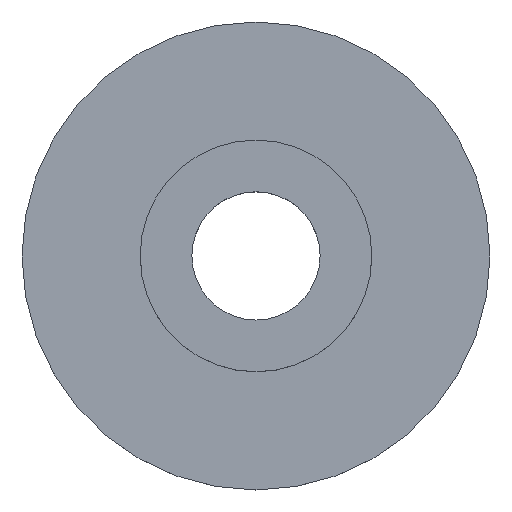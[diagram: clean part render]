
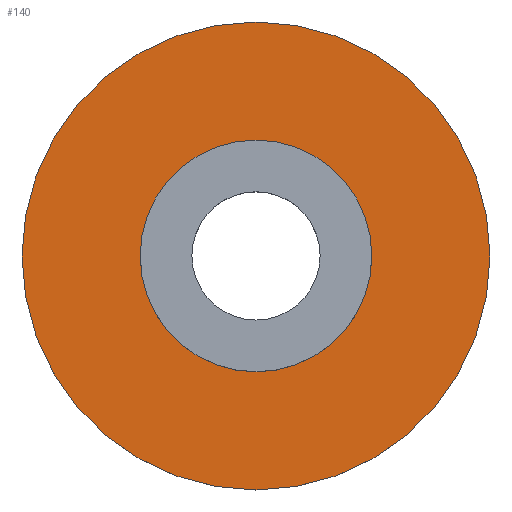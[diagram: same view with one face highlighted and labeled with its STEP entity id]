
A CAD part, top view. The second image highlights one B-rep face of the part: STEP entity #140.
In plain terms, the highlighted planar face has unit normal (0, 0, 1).
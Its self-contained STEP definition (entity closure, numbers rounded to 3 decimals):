
#74 = CYLINDRICAL_SURFACE('',#75,45.45);
#75 = AXIS2_PLACEMENT_3D('',#76,#77,#78);
#76 = CARTESIAN_POINT('',(0.,0.,0.));
#77 = DIRECTION('',(0.,0.,1.));
#78 = DIRECTION('',(1.,0.,-0.));
#91 = VERTEX_POINT('',#92);
#92 = CARTESIAN_POINT('',(45.45,0.,2.1));
#113 = EDGE_CURVE('',#91,#91,#114,.T.);
#114 = SURFACE_CURVE('',#115,(#120,#127),.PCURVE_S1.);
#115 = CIRCLE('',#116,45.45);
#116 = AXIS2_PLACEMENT_3D('',#117,#118,#119);
#117 = CARTESIAN_POINT('',(0.,0.,2.1));
#118 = DIRECTION('',(0.,0.,1.));
#119 = DIRECTION('',(1.,0.,-0.));
#120 = PCURVE('',#74,#121);
#121 = DEFINITIONAL_REPRESENTATION('',(#122),#126);
#122 = LINE('',#123,#124);
#123 = CARTESIAN_POINT('',(0.,2.1));
#124 = VECTOR('',#125,1.);
#125 = DIRECTION('',(1.,0.));
#126 = ( GEOMETRIC_REPRESENTATION_CONTEXT(2) 
PARAMETRIC_REPRESENTATION_CONTEXT() REPRESENTATION_CONTEXT('2D SPACE',''
  ) );
#127 = PCURVE('',#128,#133);
#128 = PLANE('',#129);
#129 = AXIS2_PLACEMENT_3D('',#130,#131,#132);
#130 = CARTESIAN_POINT('',(0.,0.,2.1));
#131 = DIRECTION('',(0.,0.,1.));
#132 = DIRECTION('',(1.,0.,-0.));
#133 = DEFINITIONAL_REPRESENTATION('',(#134),#138);
#134 = CIRCLE('',#135,45.45);
#135 = AXIS2_PLACEMENT_2D('',#136,#137);
#136 = CARTESIAN_POINT('',(0.,0.));
#137 = DIRECTION('',(1.,0.));
#138 = ( GEOMETRIC_REPRESENTATION_CONTEXT(2) 
PARAMETRIC_REPRESENTATION_CONTEXT() REPRESENTATION_CONTEXT('2D SPACE',''
  ) );
#140 = ADVANCED_FACE('',(#141,#144),#128,.T.);
#141 = FACE_BOUND('',#142,.T.);
#142 = EDGE_LOOP('',(#143));
#143 = ORIENTED_EDGE('',*,*,#113,.T.);
#144 = FACE_BOUND('',#145,.T.);
#145 = EDGE_LOOP('',(#146));
#146 = ORIENTED_EDGE('',*,*,#147,.F.);
#147 = EDGE_CURVE('',#148,#148,#150,.T.);
#148 = VERTEX_POINT('',#149);
#149 = CARTESIAN_POINT('',(22.5,0.,2.1));
#150 = SURFACE_CURVE('',#151,(#156,#163),.PCURVE_S1.);
#151 = CIRCLE('',#152,22.5);
#152 = AXIS2_PLACEMENT_3D('',#153,#154,#155);
#153 = CARTESIAN_POINT('',(0.,0.,2.1));
#154 = DIRECTION('',(0.,0.,1.));
#155 = DIRECTION('',(1.,0.,-0.));
#156 = PCURVE('',#128,#157);
#157 = DEFINITIONAL_REPRESENTATION('',(#158),#162);
#158 = CIRCLE('',#159,22.5);
#159 = AXIS2_PLACEMENT_2D('',#160,#161);
#160 = CARTESIAN_POINT('',(0.,0.));
#161 = DIRECTION('',(1.,0.));
#162 = ( GEOMETRIC_REPRESENTATION_CONTEXT(2) 
PARAMETRIC_REPRESENTATION_CONTEXT() REPRESENTATION_CONTEXT('2D SPACE',''
  ) );
#163 = PCURVE('',#164,#169);
#164 = CYLINDRICAL_SURFACE('',#165,22.5);
#165 = AXIS2_PLACEMENT_3D('',#166,#167,#168);
#166 = CARTESIAN_POINT('',(0.,0.,2.1));
#167 = DIRECTION('',(0.,0.,1.));
#168 = DIRECTION('',(1.,0.,-0.));
#169 = DEFINITIONAL_REPRESENTATION('',(#170),#174);
#170 = LINE('',#171,#172);
#171 = CARTESIAN_POINT('',(0.,0.));
#172 = VECTOR('',#173,1.);
#173 = DIRECTION('',(1.,0.));
#174 = ( GEOMETRIC_REPRESENTATION_CONTEXT(2) 
PARAMETRIC_REPRESENTATION_CONTEXT() REPRESENTATION_CONTEXT('2D SPACE',''
  ) );
